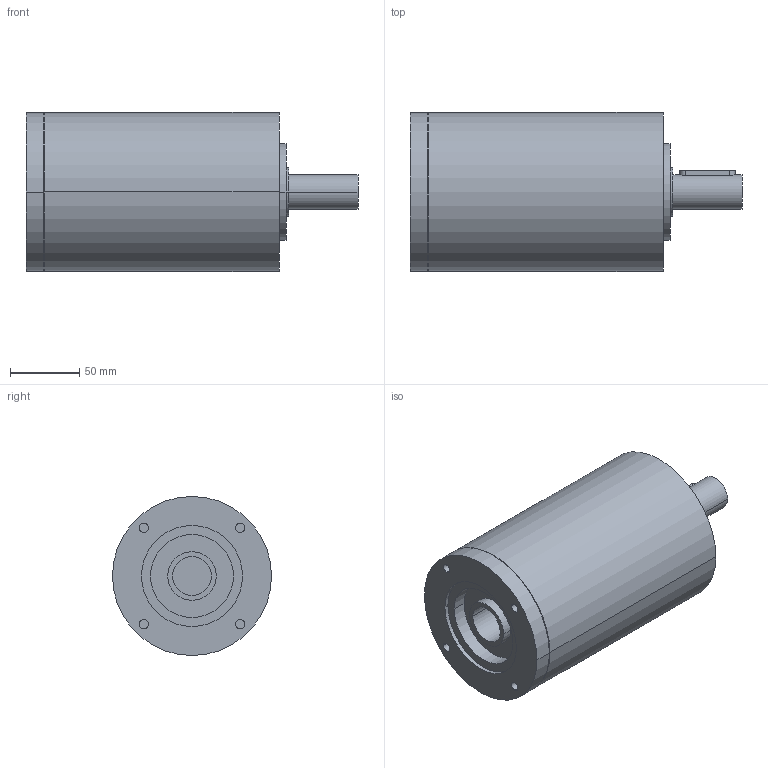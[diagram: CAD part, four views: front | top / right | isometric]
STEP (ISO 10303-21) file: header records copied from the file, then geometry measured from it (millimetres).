
FILE_DESCRIPTION(('CoCreate Modeling STEP Export'),'2;1');
FILE_NAME('GPR125_ig-9-12-16-20-28-35_25_B14_28_P04.stp','2014-08-26T14:11:34',(''),(''),'CoCreate Modeling STEP processor for AP214 (Solid Model)','CoCreate Modeling 16.00C 25-Feb-2009 (C) Parametric Technology GmbH','');
FILE_SCHEMA(('AUTOMOTIVE_DESIGN { 1 0 10303 214 1 1 1 1 }'));
Length unit declared in the file: millimetre
Products named in the file (2): GPR125_ig-9-12-16-20-28-35_25_B14_28_P04
Assembly tree (1 placements, depth 2):
  GPR125_ig-9-12-16-20-28-35_25_B14_28_P04
    GPR125_ig-9-12-16-20-28-35_25_B14_28_P04
Bounding box: 240 x 115 x 115 mm (x, y, z)
Volume: 1870611.3 mm3; surface area: 105330.4 mm2
Topology: 1 solids, 1 shells, 75 faces, 194 edges, 140 vertices
Faces by surface type: cylinder 46, plane 25, cone 4
Entity records: 1945 total; most frequent: ORIENTED_EDGE 384, CARTESIAN_POINT 361, DIRECTION 250, EDGE_CURVE 192, VERTEX_POINT 140, AXIS2_PLACEMENT_3D 97, EDGE_LOOP 96, FACE_OUTER_BOUND 75
